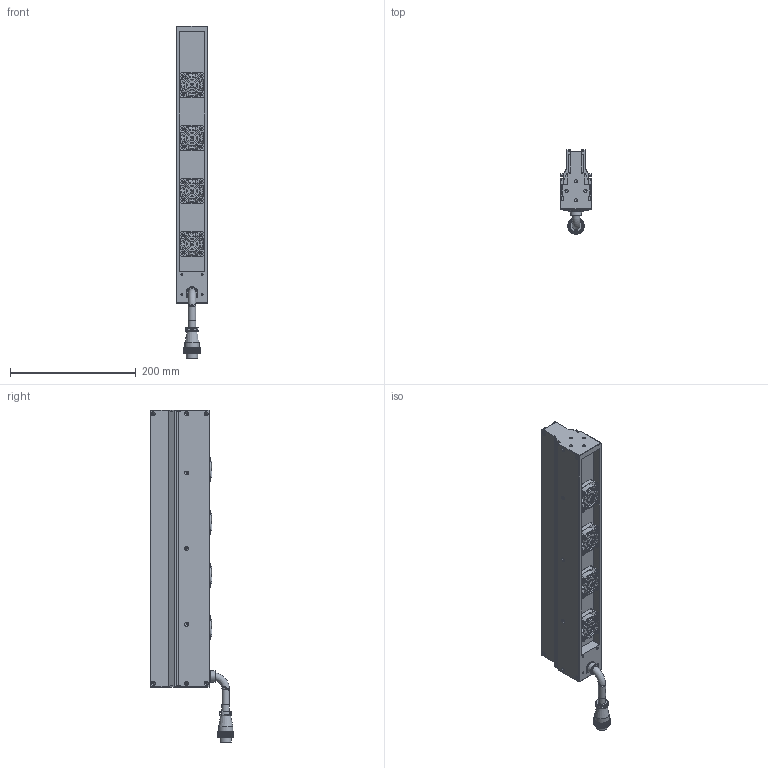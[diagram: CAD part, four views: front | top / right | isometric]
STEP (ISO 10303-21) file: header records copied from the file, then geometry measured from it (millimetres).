
FILE_DESCRIPTION (( 'STEP AP203' ), '1' );
FILE_NAME ('OPT-LSS440-W-V3.1U尨砩芞.STEP', '2025-01-21T02:35:37', ( 'USER' ), ( '' ), 'SwSTEP 2.0', 'SolidWorks 2016', '' );
FILE_SCHEMA (( 'CONFIG_CONTROL_DESIGN' ));
Length unit declared in the file: millimetre
Products named in the file (2): OPT-LSS440-W-V3.1U尨砩芞
Bounding box: 50 x 133 x 527.1 mm (x, y, z)
Volume: 1501543 mm3; surface area: 260150.2 mm2
Topology: 22 solids, 34 shells, 2764 faces, 7061 edges, 4466 vertices
Faces by surface type: bspline 1051, cylinder 823, plane 607, torus 232, cone 51
Full cylindrical faces by diameter (mm): 1 x2, 1.1 x2, 1.4 x2, 1.6 x16, 2 x4, 2.5 x22, 3 x4, 3.2 x20, 3.4 x18, 3.5 x8, 5 x8, 6.2 x16, 8 x1, 11.6 x1, 11.7 x3, 12 x1, 15 x1, 15.9 x1, 17.5 x1, 18 x1, 18.5 x1, 22.8 x1, 24 x1, 24.8 x4, 38 x4
Entity records: 103924 total; most frequent: CARTESIAN_POINT 49070, ORIENTED_EDGE 13378, DIRECTION 7317, EDGE_CURVE 6689, VERTEX_POINT 4381, B_SPLINE_CURVE_WITH_KNOTS 4077, EDGE_LOOP 3190, AXIS2_PLACEMENT_3D 2998
